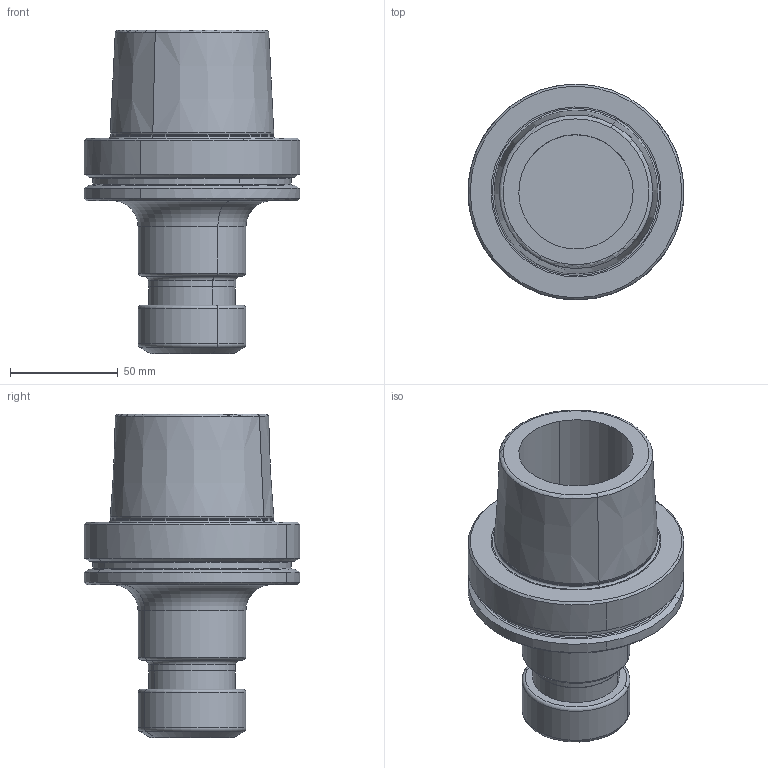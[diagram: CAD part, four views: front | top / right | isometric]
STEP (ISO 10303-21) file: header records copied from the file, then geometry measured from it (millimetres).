
FILE_DESCRIPTION(('CATIA V5 STEP','CAx-IF Rec.Pracs.--- Model Styling and Organization---1.2---2011-12-15'),'2;1');
FILE_NAME('\\nas01\drv1\utils\eitdev\rte\eit\transmagicconvert\db\out\635923544860800255\4561015-L-B.stp','2016-02-29T12:54:58+00:00',('none'),('none'),'CATIA Version 5 Release 21 SP 5 (IN-10)','CATIA V5 STEP AP214','none');
FILE_SCHEMA(('AUTOMOTIVE_DESIGN { 1 0 10303 214 1 1 1 1 }'));
Length unit declared in the file: millimetre
Products named in the file (1): HSK A 100 ER32X100 
Bounding box: 99.98 x 100 x 150 mm (x, y, z)
Volume: 398286 mm3; surface area: 62180.8 mm2
Topology: 1 solids, 1 shells, 78 faces, 204 edges, 135 vertices
Faces by surface type: cylinder 24, torus 22, cone 22, plane 10
Entity records: 2303 total; most frequent: CARTESIAN_POINT 528, ORIENTED_EDGE 404, DIRECTION 276, EDGE_CURVE 202, AXIS2_PLACEMENT_3D 185, CIRCLE 138, VERTEX_POINT 135, EDGE_LOOP 87
